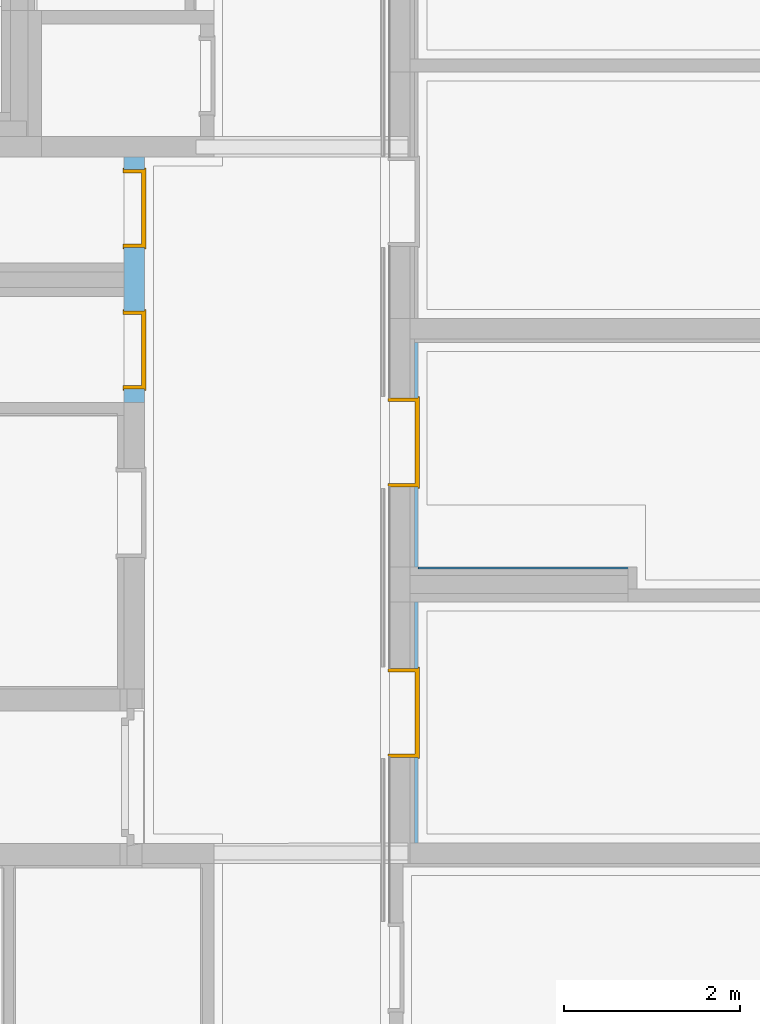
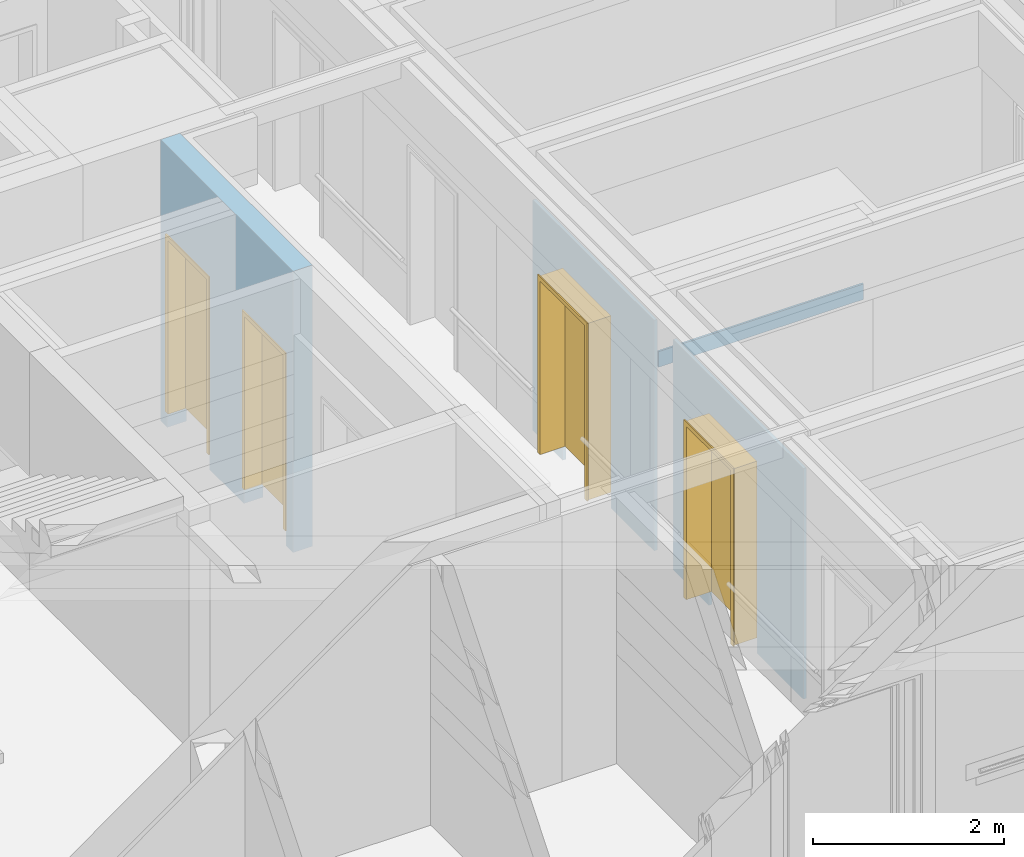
# One storey, part 76 of 207: 4 doors, 1 wall, 4 openings, plus 3 elements that do not belong to this part.
"""IFC4 building model written with IfcOpenShell, lengths in metres."""

from ifc_helpers import new_model, entity, si_unit, converted_unit, derived_unit, frame, frame_2d, origin, origin_with_axes, place, context, subcontext, project, spatial, polyline, rectangle, outline, extrude, faceted_brep, source, transform, mapped, material, type_object, element, fill, save


model = new_model("IFC4")

# Units and contexts
model_context = context("Model", 3, precision=1e-05, world=origin())
body_context = subcontext(model_context, "Body", "Model", "MODEL_VIEW")
ifc_project = project(units=[si_unit("LENGTHUNIT", "METRE"), si_unit("AREAUNIT", "SQUARE_METRE"), si_unit("VOLUMEUNIT", "CUBIC_METRE"), si_unit("MASSUNIT", "GRAM", prefix="KILO"), converted_unit("PLANEANGLEUNIT", "DEGREE", entity("IfcPlaneAngleMeasure", 0.0174532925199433), si_unit("PLANEANGLEUNIT", "RADIAN"), dimensions=[0, 0, 0, 0, 0, 0, 0]), derived_unit("THERMALTRANSMITTANCEUNIT", [(si_unit("POWERUNIT", "WATT"), 1), (si_unit("THERMODYNAMICTEMPERATUREUNIT", "KELVIN"), -1), (si_unit("LENGTHUNIT", "METRE"), -2)]), derived_unit("VOLUMETRICFLOWRATEUNIT", [(si_unit("LENGTHUNIT", "METRE"), 3), (converted_unit("TIMEUNIT", "hour", entity("IfcTimeMeasure", 3600.0), si_unit("TIMEUNIT", "SECOND"), dimensions=[0, 0, 1, 0, 0, 0, 0]), -1), (si_unit("LENGTHUNIT", "METRE"), -1)])], contexts=[model_context])

# Site, building, storey
site_placement = place(None, origin())
site = spatial("IfcSite", under=ifc_project, at=site_placement, Name="Psychiatrie Neubau Wunstorf", CompositionType="ELEMENT")
building_placement = place(site_placement, origin())
building = spatial("IfcBuilding", under=site, at=building_placement, Name="Neubau H2 Stationsgebäude", CompositionType="ELEMENT")
storey_placement = place(building_placement, frame((0.0, 0.0, -0.2)))
storey = spatial("IfcBuildingStorey", under=building, at=storey_placement, Name="H2 Ebene 0", CompositionType="ELEMENT", Elevation=-0.2)

# Wall
wall_1_placement = place(storey_placement, frame((10.2390000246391, 12.986, 2.35)))
element("IfcWall", 1, at=wall_1_placement, inside=storey, Name="WV 1.1", context=body_context, shape_type="Brep", body=[
    faceted_brep([(2.48, 0.0, 0.0), (2.48, 0.025, 0.0), (0.0, 0.025, 0.0), (0.0, 0.0, 0.0), (2.48, 0.025, 0.2), (2.48, 0.0, 0.2), (0.0, 0.0, 0.2), (0.0, 0.025, 0.2)], [[[0, 1, 2, 3]], [[4, 5, 6, 7]], [[1, 0, 5, 4]], [[2, 1, 4, 7]], [[3, 2, 7, 6]], [[0, 3, 6, 5]]], orient=[[False], [False], [False], [False], [False], [False]]),
])

# Wall, openings, doors
ifc_material_1 = material(Name="WI-HW 60")
wall_2_placement = place(storey_placement, frame((7.14099877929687, 14.8750132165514, 0.0), z_axis=(0.0, 0.0, 1.0), x_axis=(0.0, 1.0, 0.0)))
wall_2 = element("IfcWall", 2, at=wall_2_placement, inside=storey, material=ifc_material_1, context=body_context, shape_type="SweptSolid", body=[
    extrude(rectangle(XDim=2.779, YDim=0.232, at=frame_2d((1.3895, 0.116), x_axis=(1.0, 0.0))), origin_with_axes(), (0.0, 0.0, 1.0), 3.6),
])
opening_1_placement = place(wall_2_placement, frame((0.15, 0.0, 0.0), z_axis=(0.0, 1.0, 0.0), x_axis=(0.0, 0.0, 1.0)))
opening_1 = element("IfcOpeningElement", 3, at=opening_1_placement, cuts=wall_2, Name="Türöffnung", ObjectType="Opening", context=body_context, shape_type="SweptSolid", body=[
    extrude(outline(polyline([(2.46, 0.885), (2.46, 0.0), (0.0, 0.0), (0.0, 0.885), (2.46, 0.885)])), origin_with_axes(), (0.0, 0.0, 1.0), 0.232),
])
opening_2_placement = place(wall_2_placement, frame((1.75500131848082, 0.0, 0.0), z_axis=(0.0, 1.0, 0.0), x_axis=(0.0, 0.0, 1.0)))
opening_2 = element("IfcOpeningElement", 4, at=opening_2_placement, cuts=wall_2, Name="Türöffnung", ObjectType="Opening", context=body_context, shape_type="SweptSolid", body=[
    extrude(outline(polyline([(2.46, 0.885), (2.46, 0.0), (0.0, 0.0), (0.0, 0.885), (2.46, 0.885)])), origin_with_axes(), (0.0, 0.0, 1.0), 0.232),
])
ifc_material_2 = material(Name="TI-1F-UZ-D-N")
door_type_1 = type_object("IfcDoorType", Name="SMT", OperationType="SINGLE_SWING_RIGHT", ParameterTakesPrecedence=False, PredefinedType="DOOR")
shared_shape_1 = source(origin_with_axes(), body_context, "Body", "Brep", [
    faceted_brep([(0.885000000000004, -0.0150000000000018, 2.46), (0.885000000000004, -0.0150000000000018, 0.2), (0.845000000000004, -0.0150000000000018, 0.2), (0.845000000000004, -0.0150000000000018, 2.46), (0.885000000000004, 0.246999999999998, 0.2), (0.885000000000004, 0.246999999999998, 2.46), (0.845000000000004, 0.246999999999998, 2.46), (0.845000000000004, 0.246999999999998, 0.2)], [[[0, 1, 2, 3]], [[4, 5, 6, 7]], [[1, 0, 5, 4]], [[2, 1, 4, 7]], [[3, 2, 7, 6]], [[0, 3, 6, 5]]], orient=[[False], [False], [False], [False], [False], [False]]),
    faceted_brep([(0.885000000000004, -0.0150000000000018, 2.475), (0.900000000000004, -0.0150000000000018, 2.475), (0.900000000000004, -0.0150000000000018, 0.2), (0.885000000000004, -0.0150000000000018, 0.2), (0.885000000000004, 0.0, 0.2), (0.900000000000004, 0.0, 0.2), (0.900000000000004, 0.0, 2.475), (0.885000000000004, 0.0, 2.475)], [[[0, 1, 2, 3]], [[4, 5, 6, 7]], [[3, 4, 7, 0]], [[2, 5, 4, 3]], [[1, 6, 5, 2]], [[0, 7, 6, 1]]], orient=[[False], [False], [False], [False], [False], [False]]),
    faceted_brep([(0.885000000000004, 0.231999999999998, 2.475), (0.900000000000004, 0.231999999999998, 2.475), (0.900000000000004, 0.231999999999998, 0.2), (0.885000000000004, 0.231999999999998, 0.2), (0.885000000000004, 0.246999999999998, 0.2), (0.900000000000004, 0.246999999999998, 0.2), (0.900000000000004, 0.246999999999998, 2.475), (0.885000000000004, 0.246999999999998, 2.475)], [[[0, 1, 2, 3]], [[4, 5, 6, 7]], [[3, 4, 7, 0]], [[2, 5, 4, 3]], [[1, 6, 5, 2]], [[0, 7, 6, 1]]], orient=[[False], [False], [False], [False], [False], [False]]),
    faceted_brep([(0.0400000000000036, -0.0150000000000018, 2.46), (0.0400000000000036, -0.0150000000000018, 0.2), (0.0, -0.0150000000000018, 0.2), (0.0, -0.0150000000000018, 2.46), (0.0400000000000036, 0.246999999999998, 0.2), (0.0400000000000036, 0.246999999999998, 2.46), (0.0, 0.246999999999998, 2.46), (0.0, 0.246999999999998, 0.2)], [[[0, 1, 2, 3]], [[4, 5, 6, 7]], [[1, 0, 5, 4]], [[2, 1, 4, 7]], [[3, 2, 7, 6]], [[0, 3, 6, 5]]], orient=[[False], [False], [False], [False], [False], [False]]),
    faceted_brep([(0.0, -0.0150000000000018, 2.475), (0.0, -0.0150000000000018, 0.2), (-0.0149999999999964, -0.0150000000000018, 0.2), (-0.0149999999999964, -0.0150000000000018, 2.475), (0.0, 0.0, 0.2), (0.0, 0.0, 2.475), (-0.0149999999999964, 0.0, 2.475), (-0.0149999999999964, 0.0, 0.2)], [[[0, 1, 2, 3]], [[4, 5, 6, 7]], [[1, 0, 5, 4]], [[2, 1, 4, 7]], [[3, 2, 7, 6]], [[0, 3, 6, 5]]], orient=[[False], [False], [False], [False], [False], [False]]),
    faceted_brep([(0.0, 0.231999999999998, 2.475), (0.0, 0.231999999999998, 0.2), (-0.0149999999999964, 0.231999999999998, 0.2), (-0.0149999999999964, 0.231999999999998, 2.475), (0.0, 0.246999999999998, 0.2), (0.0, 0.246999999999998, 2.475), (-0.0149999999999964, 0.246999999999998, 2.475), (-0.0149999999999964, 0.246999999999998, 0.2)], [[[0, 1, 2, 3]], [[4, 5, 6, 7]], [[1, 0, 5, 4]], [[2, 1, 4, 7]], [[3, 2, 7, 6]], [[0, 3, 6, 5]]], orient=[[False], [False], [False], [False], [False], [False]]),
    faceted_brep([(0.845000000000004, -0.0150000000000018, 2.46), (0.845000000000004, -0.0150000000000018, 2.42), (0.0400000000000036, -0.0150000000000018, 2.42), (0.0400000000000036, -0.0150000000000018, 2.46), (0.845000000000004, 0.246999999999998, 2.42), (0.845000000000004, 0.246999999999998, 2.46), (0.0400000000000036, 0.246999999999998, 2.46), (0.0400000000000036, 0.246999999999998, 2.42)], [[[0, 1, 2, 3]], [[4, 5, 6, 7]], [[1, 0, 5, 4]], [[2, 1, 4, 7]], [[3, 2, 7, 6]], [[0, 3, 6, 5]]], orient=[[False], [False], [False], [False], [False], [False]]),
    faceted_brep([(0.885000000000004, -0.0150000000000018, 2.475), (0.885000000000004, -0.0150000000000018, 2.46), (0.0, -0.0150000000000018, 2.46), (0.0, -0.0150000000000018, 2.475), (0.885000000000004, 0.0, 2.46), (0.885000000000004, 0.0, 2.475), (0.0, 0.0, 2.475), (0.0, 0.0, 2.46)], [[[0, 1, 2, 3]], [[4, 5, 6, 7]], [[1, 0, 5, 4]], [[2, 1, 4, 7]], [[3, 2, 7, 6]], [[0, 3, 6, 5]]], orient=[[False], [False], [False], [False], [False], [False]]),
    faceted_brep([(0.885000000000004, 0.231999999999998, 2.475), (0.885000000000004, 0.231999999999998, 2.46), (0.0, 0.231999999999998, 2.46), (0.0, 0.231999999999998, 2.475), (0.885000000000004, 0.246999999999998, 2.46), (0.885000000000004, 0.246999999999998, 2.475), (0.0, 0.246999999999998, 2.475), (0.0, 0.246999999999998, 2.46)], [[[0, 1, 2, 3]], [[4, 5, 6, 7]], [[1, 0, 5, 4]], [[2, 1, 4, 7]], [[3, 2, 7, 6]], [[0, 3, 6, 5]]], orient=[[False], [False], [False], [False], [False], [False]]),
    faceted_brep([(0.860000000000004, 0.197999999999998, 2.435), (0.860000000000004, 0.197999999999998, 0.2), (0.0250000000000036, 0.197999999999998, 0.2), (0.0250000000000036, 0.197999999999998, 2.435), (0.860000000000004, 0.247999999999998, 0.2), (0.860000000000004, 0.247999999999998, 2.435), (0.0250000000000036, 0.247999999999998, 2.435), (0.0250000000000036, 0.247999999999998, 0.2)], [[[0, 1, 2, 3]], [[4, 5, 6, 7]], [[1, 0, 5, 4]], [[2, 1, 4, 7]], [[3, 2, 7, 6]], [[0, 3, 6, 5]]], orient=[[False], [False], [False], [False], [False], [False]]),
])
door_1_placement = place(opening_1_placement, frame((0.0, 0.885, 0.232), z_axis=(1.0, 0.0, 0.0), x_axis=(0.0, -1.0, 0.0)))
door_1 = element("IfcDoor", 5, at=door_1_placement, inside=storey, type_object=door_type_1, material=ifc_material_2, Name="SMT", OverallHeight=2.46, OverallWidth=0.885, context=body_context, shape_type="MappedRepresentation", body=[
    mapped(shared_shape_1, transform((0.0, 0.0, 0.0), x_axis=(1.0, 0.0, 0.0), y_axis=(0.0, 1.0, 0.0), z_axis=(0.0, 0.0, 1.0), scale=1.0)),
])
fill(opening_1, door_1)
ifc_material_3 = material(Name="TI-1F-UZ-D-N")
door_type_2 = type_object("IfcDoorType", Name="SMT", OperationType="SINGLE_SWING_RIGHT", ParameterTakesPrecedence=False, PredefinedType="DOOR")
shared_shape_2 = source(origin_with_axes(), body_context, "Body", "Brep", [
    faceted_brep([(0.0, -0.0150000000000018, 2.46), (0.0400000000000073, -0.0150000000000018, 2.46), (0.0400000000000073, -0.0150000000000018, 0.2), (0.0, -0.0150000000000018, 0.2), (0.0, 0.246999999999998, 0.2), (0.0400000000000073, 0.246999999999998, 0.2), (0.0400000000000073, 0.246999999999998, 2.46), (0.0, 0.246999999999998, 2.46)], [[[0, 1, 2, 3]], [[4, 5, 6, 7]], [[3, 4, 7, 0]], [[2, 5, 4, 3]], [[1, 6, 5, 2]], [[0, 7, 6, 1]]], orient=[[False], [False], [False], [False], [False], [False]]),
    faceted_brep([(0.0, -0.0150000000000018, 2.475), (0.0, -0.0150000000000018, 0.2), (-0.0149999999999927, -0.0150000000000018, 0.2), (-0.0149999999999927, -0.0150000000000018, 2.475), (0.0, 0.0, 0.2), (0.0, 0.0, 2.475), (-0.0149999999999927, 0.0, 2.475), (-0.0149999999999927, 0.0, 0.2)], [[[0, 1, 2, 3]], [[4, 5, 6, 7]], [[1, 0, 5, 4]], [[2, 1, 4, 7]], [[3, 2, 7, 6]], [[0, 3, 6, 5]]], orient=[[False], [False], [False], [False], [False], [False]]),
    faceted_brep([(0.0, 0.231999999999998, 2.475), (0.0, 0.231999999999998, 0.2), (-0.0149999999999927, 0.231999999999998, 0.2), (-0.0149999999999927, 0.231999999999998, 2.475), (0.0, 0.246999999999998, 0.2), (0.0, 0.246999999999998, 2.475), (-0.0149999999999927, 0.246999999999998, 2.475), (-0.0149999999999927, 0.246999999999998, 0.2)], [[[0, 1, 2, 3]], [[4, 5, 6, 7]], [[1, 0, 5, 4]], [[2, 1, 4, 7]], [[3, 2, 7, 6]], [[0, 3, 6, 5]]], orient=[[False], [False], [False], [False], [False], [False]]),
    faceted_brep([(0.845000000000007, -0.0150000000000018, 2.46), (0.885000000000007, -0.0150000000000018, 2.46), (0.885000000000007, -0.0150000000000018, 0.2), (0.845000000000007, -0.0150000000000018, 0.2), (0.845000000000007, 0.246999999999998, 0.2), (0.885000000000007, 0.246999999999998, 0.2), (0.885000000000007, 0.246999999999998, 2.46), (0.845000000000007, 0.246999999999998, 2.46)], [[[0, 1, 2, 3]], [[4, 5, 6, 7]], [[3, 4, 7, 0]], [[2, 5, 4, 3]], [[1, 6, 5, 2]], [[0, 7, 6, 1]]], orient=[[False], [False], [False], [False], [False], [False]]),
    faceted_brep([(0.885000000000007, -0.0150000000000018, 2.475), (0.900000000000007, -0.0150000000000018, 2.475), (0.900000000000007, -0.0150000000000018, 0.2), (0.885000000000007, -0.0150000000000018, 0.2), (0.885000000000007, 0.0, 0.2), (0.900000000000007, 0.0, 0.2), (0.900000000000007, 0.0, 2.475), (0.885000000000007, 0.0, 2.475)], [[[0, 1, 2, 3]], [[4, 5, 6, 7]], [[3, 4, 7, 0]], [[2, 5, 4, 3]], [[1, 6, 5, 2]], [[0, 7, 6, 1]]], orient=[[False], [False], [False], [False], [False], [False]]),
    faceted_brep([(0.885000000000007, 0.231999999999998, 2.475), (0.900000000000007, 0.231999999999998, 2.475), (0.900000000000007, 0.231999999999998, 0.2), (0.885000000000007, 0.231999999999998, 0.2), (0.885000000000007, 0.246999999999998, 0.2), (0.900000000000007, 0.246999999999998, 0.2), (0.900000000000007, 0.246999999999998, 2.475), (0.885000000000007, 0.246999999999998, 2.475)], [[[0, 1, 2, 3]], [[4, 5, 6, 7]], [[3, 4, 7, 0]], [[2, 5, 4, 3]], [[1, 6, 5, 2]], [[0, 7, 6, 1]]], orient=[[False], [False], [False], [False], [False], [False]]),
    faceted_brep([(0.0400000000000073, -0.0150000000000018, 2.46), (0.845000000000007, -0.0150000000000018, 2.46), (0.845000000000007, -0.0150000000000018, 2.42), (0.0400000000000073, -0.0150000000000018, 2.42), (0.0400000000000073, 0.246999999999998, 2.42), (0.845000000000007, 0.246999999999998, 2.42), (0.845000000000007, 0.246999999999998, 2.46), (0.0400000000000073, 0.246999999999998, 2.46)], [[[0, 1, 2, 3]], [[4, 5, 6, 7]], [[3, 4, 7, 0]], [[2, 5, 4, 3]], [[1, 6, 5, 2]], [[0, 7, 6, 1]]], orient=[[False], [False], [False], [False], [False], [False]]),
    faceted_brep([(0.0, -0.0150000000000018, 2.475), (0.885000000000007, -0.0150000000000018, 2.475), (0.885000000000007, -0.0150000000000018, 2.46), (0.0, -0.0150000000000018, 2.46), (0.0, 0.0, 2.46), (0.885000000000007, 0.0, 2.46), (0.885000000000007, 0.0, 2.475), (0.0, 0.0, 2.475)], [[[0, 1, 2, 3]], [[4, 5, 6, 7]], [[3, 4, 7, 0]], [[2, 5, 4, 3]], [[1, 6, 5, 2]], [[0, 7, 6, 1]]], orient=[[False], [False], [False], [False], [False], [False]]),
    faceted_brep([(0.0, 0.231999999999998, 2.475), (0.885000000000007, 0.231999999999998, 2.475), (0.885000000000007, 0.231999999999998, 2.46), (0.0, 0.231999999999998, 2.46), (0.0, 0.246999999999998, 2.46), (0.885000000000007, 0.246999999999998, 2.46), (0.885000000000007, 0.246999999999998, 2.475), (0.0, 0.246999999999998, 2.475)], [[[0, 1, 2, 3]], [[4, 5, 6, 7]], [[3, 4, 7, 0]], [[2, 5, 4, 3]], [[1, 6, 5, 2]], [[0, 7, 6, 1]]], orient=[[False], [False], [False], [False], [False], [False]]),
    faceted_brep([(0.0250000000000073, 0.197999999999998, 2.435), (0.860000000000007, 0.197999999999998, 2.435), (0.860000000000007, 0.197999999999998, 0.2), (0.0250000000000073, 0.197999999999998, 0.2), (0.0250000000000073, 0.247999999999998, 0.2), (0.860000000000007, 0.247999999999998, 0.2), (0.860000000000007, 0.247999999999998, 2.435), (0.0250000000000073, 0.247999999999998, 2.435)], [[[0, 1, 2, 3]], [[4, 5, 6, 7]], [[3, 4, 7, 0]], [[2, 5, 4, 3]], [[1, 6, 5, 2]], [[0, 7, 6, 1]]], orient=[[False], [False], [False], [False], [False], [False]]),
])
door_2_placement = place(opening_2_placement, frame((0.0, 0.885, 0.232), z_axis=(1.0, 0.0, 0.0), x_axis=(0.0, -1.0, 0.0)))
door_2 = element("IfcDoor", 6, at=door_2_placement, inside=storey, type_object=door_type_2, material=ifc_material_3, Name="SMT", OverallHeight=2.46, OverallWidth=0.885, context=body_context, shape_type="MappedRepresentation", body=[
    mapped(shared_shape_2, transform((0.0, 0.0, 0.0), x_axis=(1.0, 0.0, 0.0), y_axis=(0.0, 1.0, 0.0), z_axis=(0.0, 0.0, 1.0), scale=1.0)),
])
fill(opening_2, door_2)

# Wall, opening, door
ifc_material_4 = material(Name="WI-LB")
wall_3_placement = place(storey_placement, frame((10.2390000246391, 9.88249989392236, 0.0), z_axis=(0.0, 0.0, 1.0), x_axis=(0.0, 1.0, 0.0)))
wall_3 = element("IfcWall", 7, at=wall_3_placement, inside=storey, material=ifc_material_4, context=body_context, shape_type="SweptSolid", body=[
    extrude(rectangle(XDim=2.72850010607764, YDim=0.0395, at=frame_2d((1.36425005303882, 0.01975), x_axis=(1.0, 0.0))), origin_with_axes(), (0.0, 0.0, 1.0), 2.95),
])
opening_3_placement = place(wall_3_placement, frame((1.97850010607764, 0.0395, 0.0), z_axis=(0.0, -1.0, 0.0), x_axis=(0.0, 0.0, 1.0)))
opening_3 = element("IfcOpeningElement", 8, at=opening_3_placement, cuts=wall_3, Name="Türöffnung", ObjectType="Opening", context=body_context, shape_type="SweptSolid", body=[
    extrude(outline(polyline([(2.46, 1.01), (2.46, 0.0), (0.0, 0.0), (0.0, 1.01), (2.46, 1.01)])), origin_with_axes(), (0.0, 0.0, 1.0), 0.0395),
])
ifc_material_5 = material(Name="TI-1F-UZ-ZK")
door_type_3 = type_object("IfcDoorType", Name="SMT", OperationType="SINGLE_SWING_RIGHT", ParameterTakesPrecedence=False, PredefinedType="DOOR")
shared_shape_3 = source(origin_with_axes(), body_context, "Body", "Brep", [
    faceted_brep([(0.0, -0.0150000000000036, 2.46), (0.0400000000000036, -0.0150000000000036, 2.46), (0.0400000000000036, -0.0150000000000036, 0.2), (0.0, -0.0150000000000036, 0.2), (0.0, 0.336499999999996, 0.2), (0.0400000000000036, 0.336499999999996, 0.2), (0.0400000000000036, 0.336499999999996, 2.46), (0.0, 0.336499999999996, 2.46)], [[[0, 1, 2, 3]], [[4, 5, 6, 7]], [[3, 4, 7, 0]], [[2, 5, 4, 3]], [[1, 6, 5, 2]], [[0, 7, 6, 1]]], orient=[[False], [False], [False], [False], [False], [False]]),
    faceted_brep([(0.0, -0.0150000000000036, 2.475), (0.0, -0.0150000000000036, 0.2), (-0.0149999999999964, -0.0150000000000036, 0.2), (-0.0149999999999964, -0.0150000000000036, 2.475), (0.0, 0.0, 0.2), (0.0, 0.0, 2.475), (-0.0149999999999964, 0.0, 2.475), (-0.0149999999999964, 0.0, 0.2)], [[[0, 1, 2, 3]], [[4, 5, 6, 7]], [[1, 0, 5, 4]], [[2, 1, 4, 7]], [[3, 2, 7, 6]], [[0, 3, 6, 5]]], orient=[[False], [False], [False], [False], [False], [False]]),
    faceted_brep([(0.0, 0.321499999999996, 2.475), (0.0, 0.321499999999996, 0.2), (-0.0149999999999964, 0.321499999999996, 0.2), (-0.0149999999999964, 0.321499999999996, 2.475), (0.0, 0.336499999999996, 0.2), (0.0, 0.336499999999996, 2.475), (-0.0149999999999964, 0.336499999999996, 2.475), (-0.0149999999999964, 0.336499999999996, 0.2)], [[[0, 1, 2, 3]], [[4, 5, 6, 7]], [[1, 0, 5, 4]], [[2, 1, 4, 7]], [[3, 2, 7, 6]], [[0, 3, 6, 5]]], orient=[[False], [False], [False], [False], [False], [False]]),
    faceted_brep([(0.970000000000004, -0.0150000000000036, 2.46), (1.01, -0.0150000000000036, 2.46), (1.01, -0.0150000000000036, 0.2), (0.970000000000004, -0.0150000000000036, 0.2), (0.970000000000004, 0.336499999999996, 0.2), (1.01, 0.336499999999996, 0.2), (1.01, 0.336499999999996, 2.46), (0.970000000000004, 0.336499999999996, 2.46)], [[[0, 1, 2, 3]], [[4, 5, 6, 7]], [[3, 4, 7, 0]], [[2, 5, 4, 3]], [[1, 6, 5, 2]], [[0, 7, 6, 1]]], orient=[[False], [False], [False], [False], [False], [False]]),
    faceted_brep([(1.01, -0.0150000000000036, 2.475), (1.025, -0.0150000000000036, 2.475), (1.025, -0.0150000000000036, 0.2), (1.01, -0.0150000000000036, 0.2), (1.01, 0.0, 0.2), (1.025, 0.0, 0.2), (1.025, 0.0, 2.475), (1.01, 0.0, 2.475)], [[[0, 1, 2, 3]], [[4, 5, 6, 7]], [[3, 4, 7, 0]], [[2, 5, 4, 3]], [[1, 6, 5, 2]], [[0, 7, 6, 1]]], orient=[[False], [False], [False], [False], [False], [False]]),
    faceted_brep([(1.01, 0.321499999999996, 2.475), (1.025, 0.321499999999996, 2.475), (1.025, 0.321499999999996, 0.2), (1.01, 0.321499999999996, 0.2), (1.01, 0.336499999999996, 0.2), (1.025, 0.336499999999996, 0.2), (1.025, 0.336499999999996, 2.475), (1.01, 0.336499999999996, 2.475)], [[[0, 1, 2, 3]], [[4, 5, 6, 7]], [[3, 4, 7, 0]], [[2, 5, 4, 3]], [[1, 6, 5, 2]], [[0, 7, 6, 1]]], orient=[[False], [False], [False], [False], [False], [False]]),
    faceted_brep([(0.0400000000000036, -0.0150000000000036, 2.46), (0.970000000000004, -0.0150000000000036, 2.46), (0.970000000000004, -0.0150000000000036, 2.42), (0.0400000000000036, -0.0150000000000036, 2.42), (0.0400000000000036, 0.336499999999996, 2.42), (0.970000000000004, 0.336499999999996, 2.42), (0.970000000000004, 0.336499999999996, 2.46), (0.0400000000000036, 0.336499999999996, 2.46)], [[[0, 1, 2, 3]], [[4, 5, 6, 7]], [[3, 4, 7, 0]], [[2, 5, 4, 3]], [[1, 6, 5, 2]], [[0, 7, 6, 1]]], orient=[[False], [False], [False], [False], [False], [False]]),
    faceted_brep([(0.0, -0.0150000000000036, 2.475), (1.01, -0.0150000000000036, 2.475), (1.01, -0.0150000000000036, 2.46), (0.0, -0.0150000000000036, 2.46), (0.0, 0.0, 2.46), (1.01, 0.0, 2.46), (1.01, 0.0, 2.475), (0.0, 0.0, 2.475)], [[[0, 1, 2, 3]], [[4, 5, 6, 7]], [[3, 4, 7, 0]], [[2, 5, 4, 3]], [[1, 6, 5, 2]], [[0, 7, 6, 1]]], orient=[[False], [False], [False], [False], [False], [False]]),
    faceted_brep([(0.0, 0.321499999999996, 2.475), (1.01, 0.321499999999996, 2.475), (1.01, 0.321499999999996, 2.46), (0.0, 0.321499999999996, 2.46), (0.0, 0.336499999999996, 2.46), (1.01, 0.336499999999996, 2.46), (1.01, 0.336499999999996, 2.475), (0.0, 0.336499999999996, 2.475)], [[[0, 1, 2, 3]], [[4, 5, 6, 7]], [[3, 4, 7, 0]], [[2, 5, 4, 3]], [[1, 6, 5, 2]], [[0, 7, 6, 1]]], orient=[[False], [False], [False], [False], [False], [False]]),
    faceted_brep([(0.0250000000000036, 0.287499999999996, 2.435), (0.985000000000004, 0.287499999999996, 2.435), (0.985000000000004, 0.287499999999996, 0.2), (0.0250000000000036, 0.287499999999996, 0.2), (0.0250000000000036, 0.337499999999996, 0.2), (0.985000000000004, 0.337499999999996, 0.2), (0.985000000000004, 0.337499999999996, 2.435), (0.0250000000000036, 0.337499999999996, 2.435)], [[[0, 1, 2, 3]], [[4, 5, 6, 7]], [[3, 4, 7, 0]], [[2, 5, 4, 3]], [[1, 6, 5, 2]], [[0, 7, 6, 1]]], orient=[[False], [False], [False], [False], [False], [False]]),
])
door_3_placement = place(opening_3_placement, frame((0.0, 0.0, -0.282), z_axis=(1.0, 0.0, 0.0), x_axis=(0.0, 1.0, 0.0)))
door_3 = element("IfcDoor", 9, at=door_3_placement, inside=storey, type_object=door_type_3, material=ifc_material_5, Name="SMT", OverallHeight=2.46, OverallWidth=1.01, context=body_context, shape_type="MappedRepresentation", body=[
    mapped(shared_shape_3, transform((0.0, 0.0, 0.0), x_axis=(1.0, 0.0, 0.0), y_axis=(0.0, 1.0, 0.0), z_axis=(0.0, 0.0, 1.0), scale=1.0)),
])
fill(opening_3, door_3)

ifc_material_6 = material(Name="WI-LB")
wall_4_placement = place(storey_placement, frame((10.2390000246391, 13.011, 0.0), z_axis=(0.0, 0.0, 1.0), x_axis=(0.0, 1.0, 0.0)))
wall_4 = element("IfcWall", 10, at=wall_4_placement, inside=storey, material=ifc_material_6, context=body_context, shape_type="SweptSolid", body=[
    extrude(rectangle(XDim=2.543, YDim=0.0395, at=frame_2d((1.2715, 0.01975), x_axis=(1.0, 0.0))), origin_with_axes(), (0.0, 0.0, 1.0), 2.95),
])
opening_4_placement = place(wall_4_placement, frame((1.91399989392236, 0.0395, 0.0), z_axis=(0.0, -1.0, 0.0), x_axis=(0.0, 0.0, 1.0)))
opening_4 = element("IfcOpeningElement", 11, at=opening_4_placement, cuts=wall_4, Name="Türöffnung", ObjectType="Opening", context=body_context, shape_type="SweptSolid", body=[
    extrude(outline(polyline([(2.46, 1.01), (2.46, 0.0), (0.0, 0.0), (0.0, 1.01), (2.46, 1.01)])), origin_with_axes(), (0.0, 0.0, 1.0), 0.0395),
])
ifc_material_7 = material(Name="TI-1F-UZ-ZK")
door_type_4 = type_object("IfcDoorType", Name="SMT", OperationType="SINGLE_SWING_RIGHT", ParameterTakesPrecedence=False, PredefinedType="DOOR")
shared_shape_4 = source(origin_with_axes(), body_context, "Body", "Brep", [
    faceted_brep([(0.0, -0.0150000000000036, 2.46), (0.0400000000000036, -0.0150000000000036, 2.46), (0.0400000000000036, -0.0150000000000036, 0.2), (0.0, -0.0150000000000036, 0.2), (0.0, 0.336499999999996, 0.2), (0.0400000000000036, 0.336499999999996, 0.2), (0.0400000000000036, 0.336499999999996, 2.46), (0.0, 0.336499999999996, 2.46)], [[[0, 1, 2, 3]], [[4, 5, 6, 7]], [[3, 4, 7, 0]], [[2, 5, 4, 3]], [[1, 6, 5, 2]], [[0, 7, 6, 1]]], orient=[[False], [False], [False], [False], [False], [False]]),
    faceted_brep([(0.0, -0.0150000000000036, 2.475), (0.0, -0.0150000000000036, 0.2), (-0.0149999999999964, -0.0150000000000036, 0.2), (-0.0149999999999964, -0.0150000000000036, 2.475), (0.0, 0.0, 0.2), (0.0, 0.0, 2.475), (-0.0149999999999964, 0.0, 2.475), (-0.0149999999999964, 0.0, 0.2)], [[[0, 1, 2, 3]], [[4, 5, 6, 7]], [[1, 0, 5, 4]], [[2, 1, 4, 7]], [[3, 2, 7, 6]], [[0, 3, 6, 5]]], orient=[[False], [False], [False], [False], [False], [False]]),
    faceted_brep([(0.0, 0.321499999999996, 2.475), (0.0, 0.321499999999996, 0.2), (-0.0149999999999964, 0.321499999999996, 0.2), (-0.0149999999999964, 0.321499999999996, 2.475), (0.0, 0.336499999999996, 0.2), (0.0, 0.336499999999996, 2.475), (-0.0149999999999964, 0.336499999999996, 2.475), (-0.0149999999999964, 0.336499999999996, 0.2)], [[[0, 1, 2, 3]], [[4, 5, 6, 7]], [[1, 0, 5, 4]], [[2, 1, 4, 7]], [[3, 2, 7, 6]], [[0, 3, 6, 5]]], orient=[[False], [False], [False], [False], [False], [False]]),
    faceted_brep([(0.970000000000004, -0.0150000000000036, 2.46), (1.01, -0.0150000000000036, 2.46), (1.01, -0.0150000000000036, 0.2), (0.970000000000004, -0.0150000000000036, 0.2), (0.970000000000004, 0.336499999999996, 0.2), (1.01, 0.336499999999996, 0.2), (1.01, 0.336499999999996, 2.46), (0.970000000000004, 0.336499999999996, 2.46)], [[[0, 1, 2, 3]], [[4, 5, 6, 7]], [[3, 4, 7, 0]], [[2, 5, 4, 3]], [[1, 6, 5, 2]], [[0, 7, 6, 1]]], orient=[[False], [False], [False], [False], [False], [False]]),
    faceted_brep([(1.01, -0.0150000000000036, 2.475), (1.025, -0.0150000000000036, 2.475), (1.025, -0.0150000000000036, 0.2), (1.01, -0.0150000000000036, 0.2), (1.01, 0.0, 0.2), (1.025, 0.0, 0.2), (1.025, 0.0, 2.475), (1.01, 0.0, 2.475)], [[[0, 1, 2, 3]], [[4, 5, 6, 7]], [[3, 4, 7, 0]], [[2, 5, 4, 3]], [[1, 6, 5, 2]], [[0, 7, 6, 1]]], orient=[[False], [False], [False], [False], [False], [False]]),
    faceted_brep([(1.01, 0.321499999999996, 2.475), (1.025, 0.321499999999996, 2.475), (1.025, 0.321499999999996, 0.2), (1.01, 0.321499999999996, 0.2), (1.01, 0.336499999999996, 0.2), (1.025, 0.336499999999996, 0.2), (1.025, 0.336499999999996, 2.475), (1.01, 0.336499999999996, 2.475)], [[[0, 1, 2, 3]], [[4, 5, 6, 7]], [[3, 4, 7, 0]], [[2, 5, 4, 3]], [[1, 6, 5, 2]], [[0, 7, 6, 1]]], orient=[[False], [False], [False], [False], [False], [False]]),
    faceted_brep([(0.0400000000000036, -0.0150000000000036, 2.46), (0.970000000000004, -0.0150000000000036, 2.46), (0.970000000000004, -0.0150000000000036, 2.42), (0.0400000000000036, -0.0150000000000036, 2.42), (0.0400000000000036, 0.336499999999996, 2.42), (0.970000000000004, 0.336499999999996, 2.42), (0.970000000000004, 0.336499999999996, 2.46), (0.0400000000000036, 0.336499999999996, 2.46)], [[[0, 1, 2, 3]], [[4, 5, 6, 7]], [[3, 4, 7, 0]], [[2, 5, 4, 3]], [[1, 6, 5, 2]], [[0, 7, 6, 1]]], orient=[[False], [False], [False], [False], [False], [False]]),
    faceted_brep([(0.0, -0.0150000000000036, 2.475), (1.01, -0.0150000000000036, 2.475), (1.01, -0.0150000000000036, 2.46), (0.0, -0.0150000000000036, 2.46), (0.0, 0.0, 2.46), (1.01, 0.0, 2.46), (1.01, 0.0, 2.475), (0.0, 0.0, 2.475)], [[[0, 1, 2, 3]], [[4, 5, 6, 7]], [[3, 4, 7, 0]], [[2, 5, 4, 3]], [[1, 6, 5, 2]], [[0, 7, 6, 1]]], orient=[[False], [False], [False], [False], [False], [False]]),
    faceted_brep([(0.0, 0.321499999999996, 2.475), (1.01, 0.321499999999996, 2.475), (1.01, 0.321499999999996, 2.46), (0.0, 0.321499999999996, 2.46), (0.0, 0.336499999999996, 2.46), (1.01, 0.336499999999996, 2.46), (1.01, 0.336499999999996, 2.475), (0.0, 0.336499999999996, 2.475)], [[[0, 1, 2, 3]], [[4, 5, 6, 7]], [[3, 4, 7, 0]], [[2, 5, 4, 3]], [[1, 6, 5, 2]], [[0, 7, 6, 1]]], orient=[[False], [False], [False], [False], [False], [False]]),
    faceted_brep([(0.0250000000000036, 0.287499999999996, 2.435), (0.985000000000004, 0.287499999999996, 2.435), (0.985000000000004, 0.287499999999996, 0.2), (0.0250000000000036, 0.287499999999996, 0.2), (0.0250000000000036, 0.337499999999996, 0.2), (0.985000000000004, 0.337499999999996, 0.2), (0.985000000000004, 0.337499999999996, 2.435), (0.0250000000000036, 0.337499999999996, 2.435)], [[[0, 1, 2, 3]], [[4, 5, 6, 7]], [[3, 4, 7, 0]], [[2, 5, 4, 3]], [[1, 6, 5, 2]], [[0, 7, 6, 1]]], orient=[[False], [False], [False], [False], [False], [False]]),
])
door_4_placement = place(opening_4_placement, frame((0.0, 0.0, -0.282), z_axis=(1.0, 0.0, 0.0), x_axis=(0.0, 1.0, 0.0)))
door_4 = element("IfcDoor", 12, at=door_4_placement, inside=storey, type_object=door_type_4, material=ifc_material_7, Name="SMT", OverallHeight=2.46, OverallWidth=1.01, context=body_context, shape_type="MappedRepresentation", body=[
    mapped(shared_shape_4, transform((0.0, 0.0, 0.0), x_axis=(1.0, 0.0, 0.0), y_axis=(0.0, 1.0, 0.0), z_axis=(0.0, 0.0, 1.0), scale=1.0)),
])
fill(opening_4, door_4)

save(model, "model.ifc")
